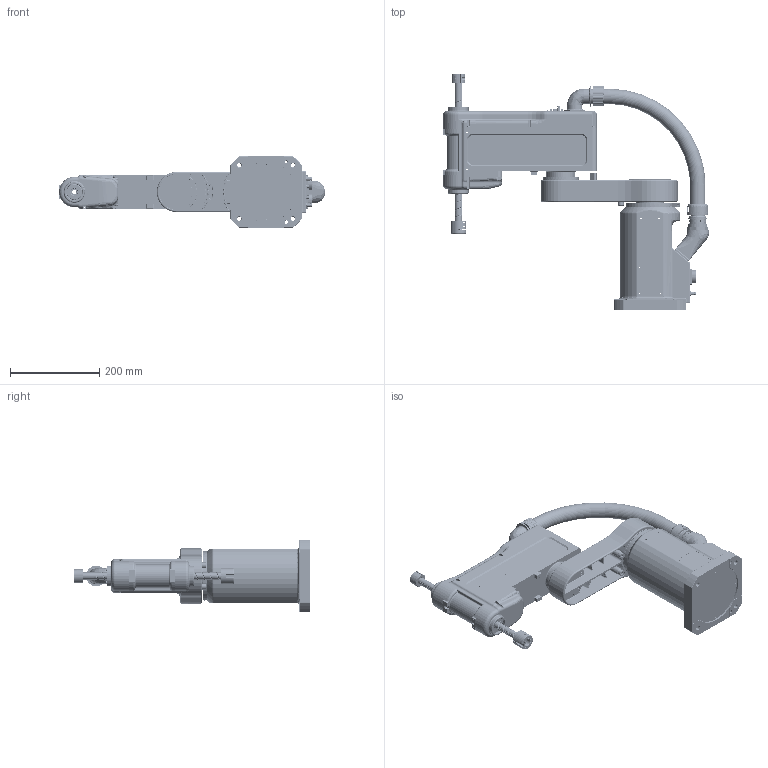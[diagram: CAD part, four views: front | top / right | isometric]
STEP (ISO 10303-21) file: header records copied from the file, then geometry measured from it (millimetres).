
FILE_DESCRIPTION (( 'STEP AP214' ), '1' );
FILE_NAME ('R4-0404 3D耀倰芞.STEP', '2023-06-08T03:29:18', ( 'iCura' ), ( 'ICOS' ), 'SwSTEP 2.0', 'SolidWorks 2018', '' );
FILE_SCHEMA (( 'AUTOMOTIVE_DESIGN' ));
Length unit declared in the file: millimetre
Products named in the file (7): R4-0404-2-00_S400; R4-0404-1-00; R4-0404-3-00 J3粣 ; R4-0404-4-00 J4粣_300; R4-0404 3D耀倰芞; 软管接头_1; 疏恇奪R4-0404
Assembly tree (6 placements, depth 2):
  R4-0404 3D耀倰芞
    R4-0404-1-00
    R4-0404-2-00_S400
    R4-0404-3-00 J3粣 
    R4-0404-4-00 J4粣_300
    软管接头_1
    疏恇奪R4-0404
Bounding box: 595.65 x 528.81 x 160 mm (x, y, z)
Volume: 155638.8 mm3; surface area: 860090.6 mm2
Topology: 2 solids, 400 shells, 2804 faces, 9671 edges, 6968 vertices
Faces by surface type: cylinder 1126, plane 887, cone 318, bspline 286, torus 161, sphere 26
Full cylindrical faces by diameter (mm): 1 x18, 2.5 x20, 2.6 x1, 3.2 x8, 3.3 x28, 3.4 x27, 3.5 x30, 4 x18, 4.2 x6, 4.5 x38, 5 x4, 5.5 x10, 6 x7, 6.5 x12, 7 x10, 8 x10, 9 x9, 10 x1, 13 x2, 14 x1, 15 x2, 16 x2, 16.5 x1, 26 x1, 28 x1, 29 x2, 29.5 x1, 30 x4, 30.2 x1, 30.3 x1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
Entity records: 159582 total; most frequent: CARTESIAN_POINT 50289, DIRECTION 16716, ORIENTED_EDGE 13892, EDGE_CURVE 8816, VERTEX_POINT 6791, AXIS2_PLACEMENT_3D 6732, CIRCLE 4204, EDGE_LOOP 3945
